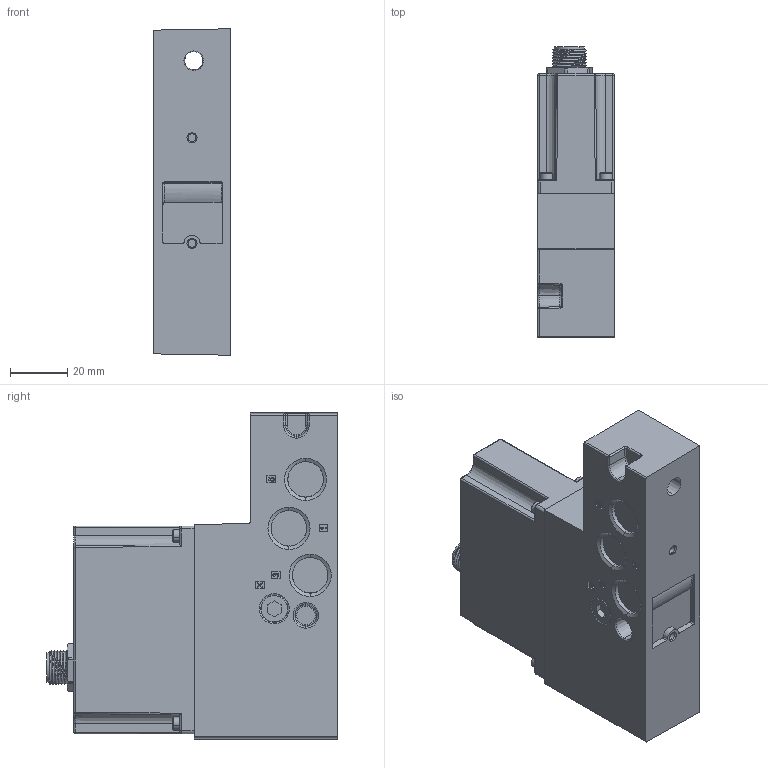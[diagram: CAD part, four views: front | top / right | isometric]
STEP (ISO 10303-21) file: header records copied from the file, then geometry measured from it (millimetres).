
FILE_DESCRIPTION (( 'STEP AP214' ), '1' );
FILE_NAME ('CLASS B MIO Link 42.STEP', '2024-08-23T19:19:15', ( '' ), ( '' ), 'SwSTEP 2.0', 'SolidWorks 2020', '' );
FILE_SCHEMA (( 'AUTOMOTIVE_DESIGN' ));
Length unit declared in the file: millimetre
Products named in the file (4): CLASS B MIO Link 42; 89208(SC); B4-3114(SC); M-M0008-B(SC)_CLASS B
Assembly tree (3 placements, depth 2):
  CLASS B MIO Link 42
    B4-3114(SC)
    M-M0008-B(SC)_CLASS B
    89208(SC)
Bounding box: 26.8 x 101.52 x 113.98 mm (x, y, z)
Volume: 197682 mm3; surface area: 38952.7 mm2
Topology: 19 solids, 19 shells, 1444 faces, 3555 edges, 2166 vertices
Faces by surface type: cylinder 449, plane 437, cone 262, bspline 161, torus 87, sphere 48
Entity records: 141230 total; most frequent: CARTESIAN_POINT 92743, ORIENTED_EDGE 6944, DIRECTION 6655, EDGE_CURVE 3472, AXIS2_PLACEMENT_3D 2509, VERTEX_POINT 2164, VECTOR 1637, LINE 1637
